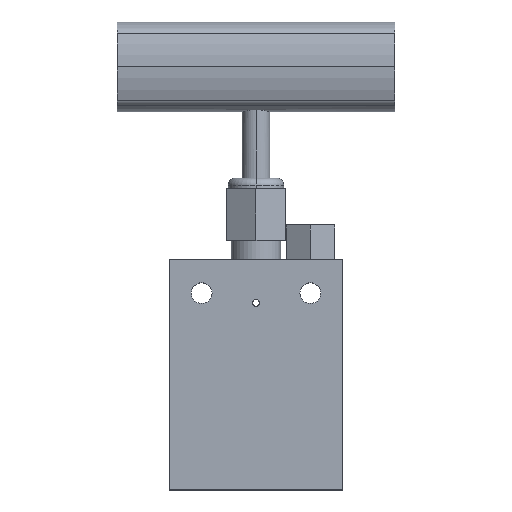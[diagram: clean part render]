
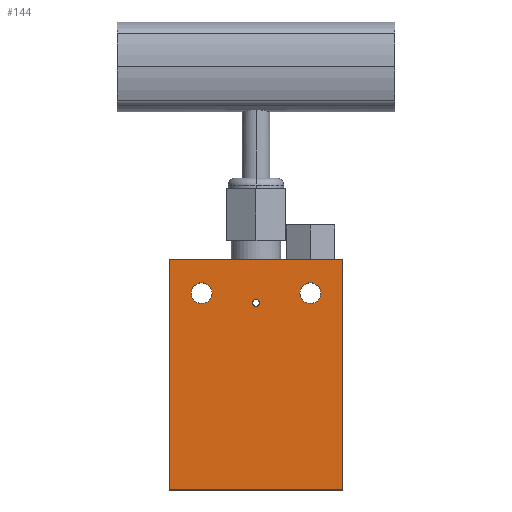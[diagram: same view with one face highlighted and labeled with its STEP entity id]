
A CAD part, top view. The second image highlights one B-rep face of the part: STEP entity #144.
In plain terms, the highlighted planar face has unit normal (0, 0, 1).
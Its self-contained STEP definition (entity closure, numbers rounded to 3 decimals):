
#50 = VERTEX_POINT ( 'NONE', #2186 ) ;
#93 = VERTEX_POINT ( 'NONE', #328 ) ;
#135 = EDGE_CURVE ( 'NONE', #2400, #2103, #1257, .T. ) ;
#144 = ADVANCED_FACE ( 'NONE', ( #1120, #1192, #3082, #1367 ), #941, .T. ) ;
#159 = ORIENTED_EDGE ( 'NONE', *, *, #816, .T. ) ;
#166 = AXIS2_PLACEMENT_3D ( 'NONE', #2100, #1646, #2302 ) ;
#181 = DIRECTION ( 'NONE',  ( 0., -1., 0. ) ) ;
#231 = DIRECTION ( 'NONE',  ( -1., 0., 0. ) ) ;
#309 = VERTEX_POINT ( 'NONE', #1349 ) ;
#328 = CARTESIAN_POINT ( 'NONE',  ( 25., -35.5, 10. ) ) ;
#359 = VERTEX_POINT ( 'NONE', #1369 ) ;
#373 = VERTEX_POINT ( 'NONE', #873 ) ;
#383 = DIRECTION ( 'NONE',  ( 0., 0., 1. ) ) ;
#386 = LINE ( 'NONE', #2819, #555 ) ;
#448 = DIRECTION ( 'NONE',  ( 1., 0., 0. ) ) ;
#451 = DIRECTION ( 'NONE',  ( 1., 0., 0. ) ) ;
#482 = EDGE_LOOP ( 'NONE', ( #2611, #2714 ) ) ;
#487 = CARTESIAN_POINT ( 'NONE',  ( 18.7, 21.3, 10. ) ) ;
#538 = CARTESIAN_POINT ( 'NONE',  ( 15.7, 21.3, 10. ) ) ;
#555 = VECTOR ( 'NONE', #686, 1000. ) ;
#571 = DIRECTION ( 'NONE',  ( 0., 0., 1. ) ) ;
#686 = DIRECTION ( 'NONE',  ( 0., 1., 0. ) ) ;
#694 = EDGE_CURVE ( 'NONE', #1713, #50, #1439, .T. ) ;
#738 = EDGE_CURVE ( 'NONE', #359, #373, #1448, .T. ) ;
#798 = EDGE_CURVE ( 'NONE', #309, #1489, #1335, .T. ) ;
#816 = EDGE_CURVE ( 'NONE', #93, #359, #386, .T. ) ;
#836 = CARTESIAN_POINT ( 'NONE',  ( -25., -35.5, 10. ) ) ;
#838 = EDGE_LOOP ( 'NONE', ( #2502, #1433 ) ) ;
#873 = CARTESIAN_POINT ( 'NONE',  ( -25., 31., 10. ) ) ;
#875 = EDGE_CURVE ( 'NONE', #373, #1366, #1354, .T. ) ;
#920 = CARTESIAN_POINT ( 'NONE',  ( -1., 18.5, 10. ) ) ;
#941 = PLANE ( 'NONE',  #2459 ) ;
#977 = DIRECTION ( 'NONE',  ( 0., 0., 1. ) ) ;
#1025 = CARTESIAN_POINT ( 'NONE',  ( 15.7, 21.3, 10. ) ) ;
#1026 = ORIENTED_EDGE ( 'NONE', *, *, #1116, .F. ) ;
#1084 = VECTOR ( 'NONE', #231, 1000. ) ;
#1116 = EDGE_CURVE ( 'NONE', #2103, #2400, #1383, .T. ) ;
#1120 = FACE_BOUND ( 'NONE', #2378, .T. ) ;
#1155 = DIRECTION ( 'NONE',  ( 1., 0., 0. ) ) ;
#1192 = FACE_BOUND ( 'NONE', #838, .T. ) ;
#1232 = DIRECTION ( 'NONE',  ( -1., 0., 0. ) ) ;
#1257 = CIRCLE ( 'NONE', #166, 1. ) ;
#1328 = EDGE_CURVE ( 'NONE', #50, #1713, #1823, .T. ) ;
#1335 = CIRCLE ( 'NONE', #1742, 3. ) ;
#1341 = CARTESIAN_POINT ( 'NONE',  ( -15.7, 21.3, 10. ) ) ;
#1349 = CARTESIAN_POINT ( 'NONE',  ( -18.7, 21.3, 10. ) ) ;
#1351 = CARTESIAN_POINT ( 'NONE',  ( 0., 18.5, 10. ) ) ;
#1354 = LINE ( 'NONE', #2306, #2802 ) ;
#1366 = VERTEX_POINT ( 'NONE', #1543 ) ;
#1367 = FACE_OUTER_BOUND ( 'NONE', #2329, .T. ) ;
#1369 = CARTESIAN_POINT ( 'NONE',  ( 25., 31., 10. ) ) ;
#1383 = CIRCLE ( 'NONE', #2634, 1. ) ;
#1433 = ORIENTED_EDGE ( 'NONE', *, *, #798, .F. ) ;
#1439 = CIRCLE ( 'NONE', #1824, 3. ) ;
#1448 = LINE ( 'NONE', #1686, #1084 ) ;
#1489 = VERTEX_POINT ( 'NONE', #1605 ) ;
#1543 = CARTESIAN_POINT ( 'NONE',  ( -25., -35.5, 10. ) ) ;
#1581 = CIRCLE ( 'NONE', #1974, 3. ) ;
#1605 = CARTESIAN_POINT ( 'NONE',  ( -12.7, 21.3, 10. ) ) ;
#1612 = EDGE_CURVE ( 'NONE', #1366, #93, #3011, .T. ) ;
#1646 = DIRECTION ( 'NONE',  ( 0., 0., 1. ) ) ;
#1662 = CARTESIAN_POINT ( 'NONE',  ( 0., 0., 10. ) ) ;
#1686 = CARTESIAN_POINT ( 'NONE',  ( -25., 31., 10. ) ) ;
#1713 = VERTEX_POINT ( 'NONE', #487 ) ;
#1742 = AXIS2_PLACEMENT_3D ( 'NONE', #1341, #2581, #448 ) ;
#1791 = ORIENTED_EDGE ( 'NONE', *, *, #738, .T. ) ;
#1796 = EDGE_CURVE ( 'NONE', #1489, #309, #1581, .T. ) ;
#1797 = ORIENTED_EDGE ( 'NONE', *, *, #1612, .T. ) ;
#1823 = CIRCLE ( 'NONE', #2267, 3. ) ;
#1824 = AXIS2_PLACEMENT_3D ( 'NONE', #538, #2653, #1232 ) ;
#1900 = CARTESIAN_POINT ( 'NONE',  ( -15.7, 21.3, 10. ) ) ;
#1904 = VECTOR ( 'NONE', #2735, 1000. ) ;
#1974 = AXIS2_PLACEMENT_3D ( 'NONE', #1900, #977, #451 ) ;
#1977 = ORIENTED_EDGE ( 'NONE', *, *, #135, .F. ) ;
#2100 = CARTESIAN_POINT ( 'NONE',  ( 0., 18.5, 10. ) ) ;
#2103 = VERTEX_POINT ( 'NONE', #2747 ) ;
#2186 = CARTESIAN_POINT ( 'NONE',  ( 12.7, 21.3, 10. ) ) ;
#2267 = AXIS2_PLACEMENT_3D ( 'NONE', #1025, #571, #2951 ) ;
#2302 = DIRECTION ( 'NONE',  ( 1., 0., 0. ) ) ;
#2306 = CARTESIAN_POINT ( 'NONE',  ( -25., 31., 10. ) ) ;
#2329 = EDGE_LOOP ( 'NONE', ( #2597, #1797, #159, #1791 ) ) ;
#2337 = DIRECTION ( 'NONE',  ( 0., 0., 1. ) ) ;
#2378 = EDGE_LOOP ( 'NONE', ( #1026, #1977 ) ) ;
#2400 = VERTEX_POINT ( 'NONE', #920 ) ;
#2459 = AXIS2_PLACEMENT_3D ( 'NONE', #1662, #2337, #1155 ) ;
#2502 = ORIENTED_EDGE ( 'NONE', *, *, #1796, .F. ) ;
#2581 = DIRECTION ( 'NONE',  ( 0., 0., 1. ) ) ;
#2597 = ORIENTED_EDGE ( 'NONE', *, *, #875, .T. ) ;
#2611 = ORIENTED_EDGE ( 'NONE', *, *, #694, .F. ) ;
#2634 = AXIS2_PLACEMENT_3D ( 'NONE', #1351, #383, #3000 ) ;
#2653 = DIRECTION ( 'NONE',  ( 0., 0., 1. ) ) ;
#2714 = ORIENTED_EDGE ( 'NONE', *, *, #1328, .F. ) ;
#2735 = DIRECTION ( 'NONE',  ( 1., 0., 0. ) ) ;
#2747 = CARTESIAN_POINT ( 'NONE',  ( 1., 18.5, 10. ) ) ;
#2802 = VECTOR ( 'NONE', #181, 1000. ) ;
#2819 = CARTESIAN_POINT ( 'NONE',  ( 25., 31., 10. ) ) ;
#2951 = DIRECTION ( 'NONE',  ( -1., 0., 0. ) ) ;
#3000 = DIRECTION ( 'NONE',  ( 1., 0., 0. ) ) ;
#3011 = LINE ( 'NONE', #836, #1904 ) ;
#3082 = FACE_BOUND ( 'NONE', #482, .T. ) ;
